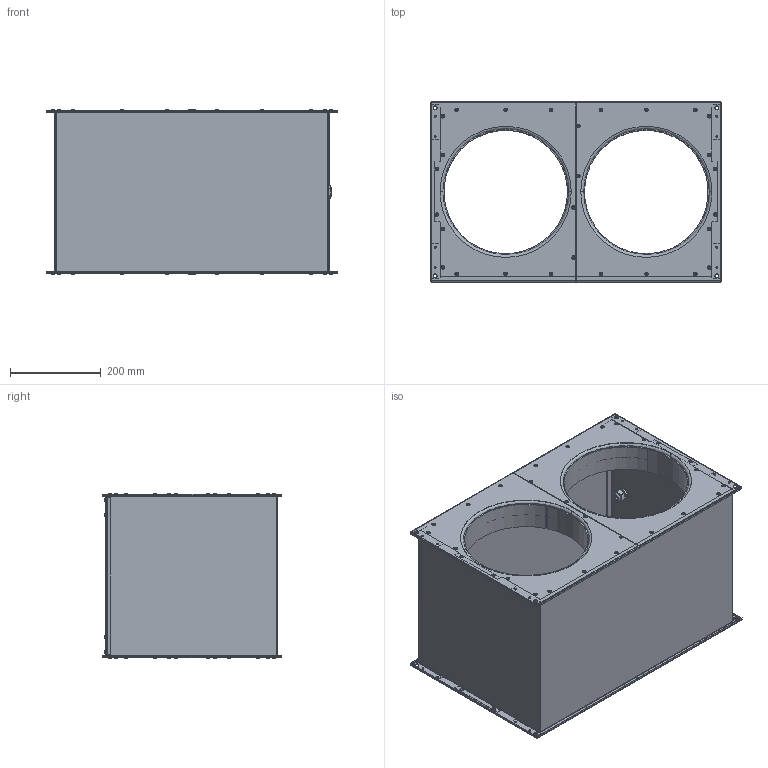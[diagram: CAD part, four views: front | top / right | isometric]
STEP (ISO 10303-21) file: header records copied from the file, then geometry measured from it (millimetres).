
FILE_DESCRIPTION (( 'STEP AP203' ), '1' );
FILE_NAME ('136745-00_EMKI6035EC21.STEP', '2016-04-20T05:31:02', ( '' ), ( '' ), 'SwSTEP 2.0', 'SolidWorks 2012', '' );
FILE_SCHEMA (( 'CONFIG_CONTROL_DESIGN' ));
Length unit declared in the file: millimetre
Products named in the file (1): 136745-00_EMKI6035EC21
Bounding box: 639 x 396 x 362.8 mm (x, y, z)
Surface area: 2326436.1 mm2 (no closed solid volume)
Topology: 0 solids, 132 shells, 781 faces, 2585 edges, 1874 vertices
Faces by surface type: cylinder 385, plane 230, torus 160, cone 6
Entity records: 29666 total; most frequent: CARTESIAN_POINT 6491, DIRECTION 5395, ORIENTED_EDGE 3761, EDGE_CURVE 2585, AXIS2_PLACEMENT_3D 2234, VERTEX_POINT 1874, CIRCLE 1452, EDGE_LOOP 1020
